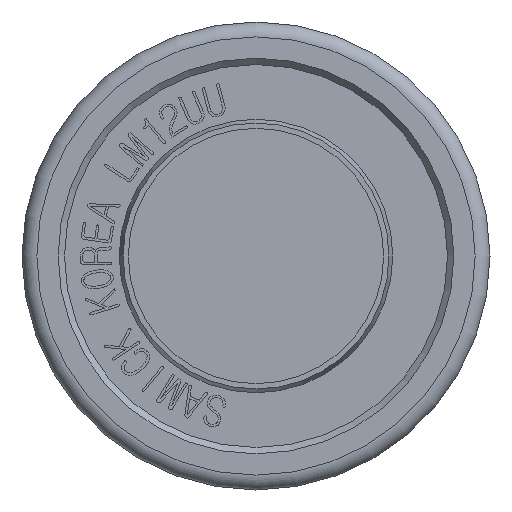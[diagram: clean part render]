
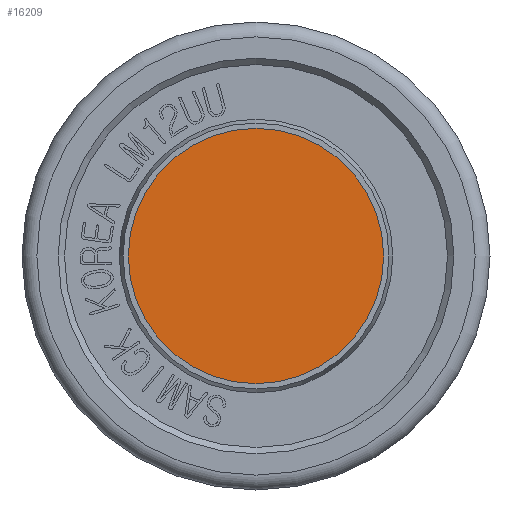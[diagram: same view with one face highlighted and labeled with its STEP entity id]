
A CAD part, front view. The second image highlights one B-rep face of the part: STEP entity #16209.
In plain terms, the highlighted planar face has unit normal (0, -1, 0).
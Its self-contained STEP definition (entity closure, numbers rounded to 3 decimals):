
#41=CIRCLE('',#16486,6.);
#353=PLANE('',#16488);
#1165=FACE_OUTER_BOUND('',#2034,.T.);
#2034=EDGE_LOOP('',(#13904));
#6994=VERTEX_POINT('',#28101);
#9315=EDGE_CURVE('',#6994,#6994,#41,.T.);
#13904=ORIENTED_EDGE('',*,*,#9315,.F.);
#16209=ADVANCED_FACE('',(#1165),#353,.T.);
#16486=AXIS2_PLACEMENT_3D('',#28103,#18129,#18130);
#16488=AXIS2_PLACEMENT_3D('',#28105,#18133,#18134);
#18129=DIRECTION('center_axis',(0.,1.,0.));
#18130=DIRECTION('ref_axis',(1.,0.,0.));
#18133=DIRECTION('center_axis',(0.,-1.,0.));
#18134=DIRECTION('ref_axis',(0.,0.,-1.));
#28101=CARTESIAN_POINT('',(-6.,-41.,0.));
#28103=CARTESIAN_POINT('Origin',(0.,-41.,0.));
#28105=CARTESIAN_POINT('Origin',(0.,-41.,0.));
